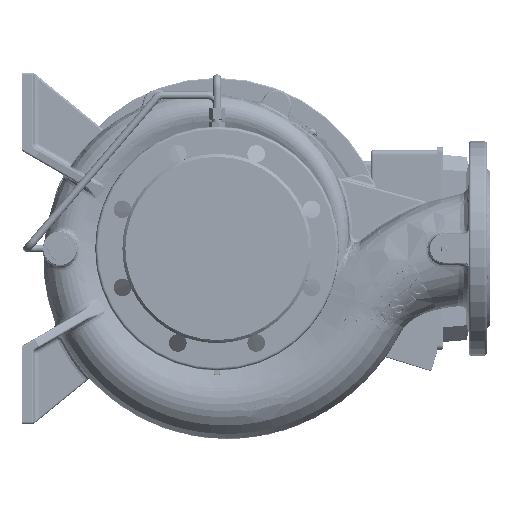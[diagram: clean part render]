
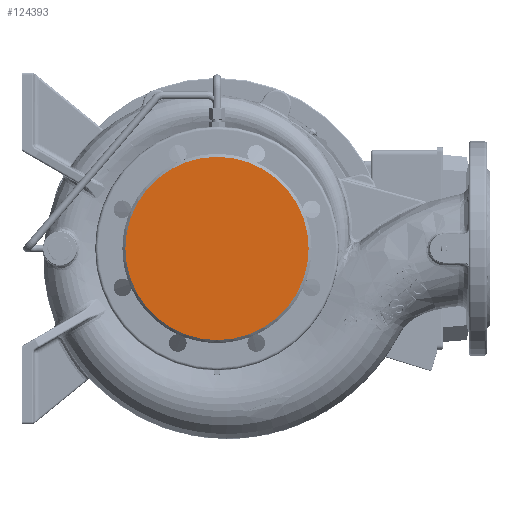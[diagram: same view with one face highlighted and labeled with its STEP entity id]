
A CAD part, front view. The second image highlights one B-rep face of the part: STEP entity #124393.
In plain terms, the highlighted planar face has unit normal (0, -1, 0) as drawn and (0, 0, 1) by its records, which use the part's own axes.
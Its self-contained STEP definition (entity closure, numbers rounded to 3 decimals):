
#26731=CARTESIAN_POINT('',(0.,0.,125.));
#26732=DIRECTION('',(0.,0.,-1.));
#26733=DIRECTION('',(1.,0.,0.));
#26734=AXIS2_PLACEMENT_3D('',#26731,#26732,#26733);
#26792=CARTESIAN_POINT('',(0.,0.,125.));
#26793=DIRECTION('',(0.,0.,-1.));
#26794=DIRECTION('',(-1.,0.,0.));
#26795=AXIS2_PLACEMENT_3D('',#26792,#26793,#26794);
#33542=CARTESIAN_POINT('',(94.,0.,125.));
#33543=CARTESIAN_POINT('',(-94.,0.,125.));
#33544=VERTEX_POINT('',#33542);
#33545=VERTEX_POINT('',#33543);
#124384=CARTESIAN_POINT('',(-111.007,214.8,125.));
#124385=DIRECTION('',(0.,0.,-1.));
#124386=DIRECTION('',(1.,0.,0.));
#124387=AXIS2_PLACEMENT_3D('',#124384,#124385,#124386);
#124388=PLANE('',#124387);
#124389=ORIENTED_EDGE('',*,*,#124264,.T.);
#124390=ORIENTED_EDGE('',*,*,#124340,.T.);
#124391=EDGE_LOOP('',(#124389,#124390));
#124392=FACE_OUTER_BOUND('',#124391,.F.);
#124393=ADVANCED_FACE('',(#124392),#124388,.F.);
#26735=CIRCLE('',#26734,94.);
#26796=CIRCLE('',#26795,94.);
#124264=EDGE_CURVE('',#33544,#33545,#26735,.T.);
#124340=EDGE_CURVE('',#33545,#33544,#26796,.T.);
